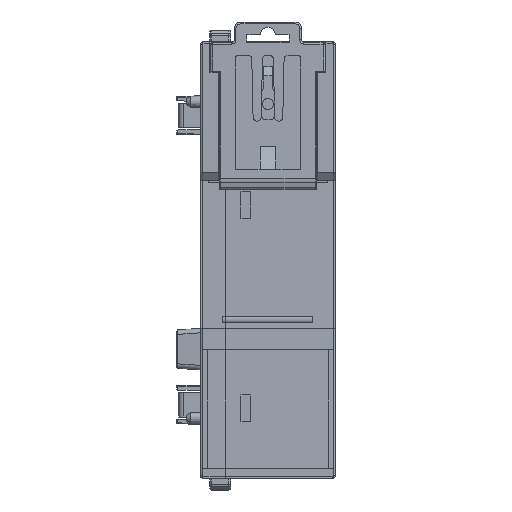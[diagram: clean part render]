
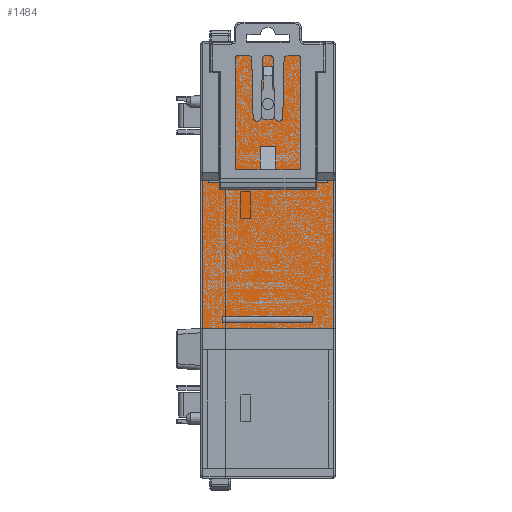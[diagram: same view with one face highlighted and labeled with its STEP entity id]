
A CAD part, front view. The second image highlights one B-rep face of the part: STEP entity #1484.
In plain terms, the highlighted planar face has unit normal (0, -1, 0).
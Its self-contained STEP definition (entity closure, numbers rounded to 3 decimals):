
#137=DIRECTION('',(0.,0.,-1.));
#138=VECTOR('',#137,35.5);
#139=CARTESIAN_POINT('',(-14.65,-42.2,17.75));
#140=LINE('',#139,#138);
#185=DIRECTION('',(0.,0.,1.));
#186=VECTOR('',#185,25.325);
#187=CARTESIAN_POINT('',(-10.35,-42.2,17.15));
#188=LINE('',#187,#186);
#189=DIRECTION('',(-1.,0.,0.));
#190=VECTOR('',#189,2.55);
#191=CARTESIAN_POINT('',(-10.35,-42.2,42.475));
#192=LINE('',#191,#190);
#193=DIRECTION('',(1.,0.,0.));
#194=VECTOR('',#193,25.8);
#195=CARTESIAN_POINT('',(-12.9,-42.2,48.5));
#196=LINE('',#195,#194);
#197=DIRECTION('',(-1.,0.,0.));
#198=VECTOR('',#197,2.55);
#199=CARTESIAN_POINT('',(12.9,-42.2,42.475));
#200=LINE('',#199,#198);
#201=DIRECTION('',(0.,0.,-1.));
#202=VECTOR('',#201,25.325);
#203=CARTESIAN_POINT('',(10.35,-42.2,42.475));
#204=LINE('',#203,#202);
#205=DIRECTION('',(-1.,0.,0.));
#206=VECTOR('',#205,29.3);
#207=CARTESIAN_POINT('',(14.65,-42.2,-17.75));
#208=LINE('',#207,#206);
#209=DIRECTION('',(-1.,0.,0.));
#210=VECTOR('',#209,2.);
#211=CARTESIAN_POINT('',(1.,-42.2,42.95));
#212=LINE('',#211,#210);
#213=DIRECTION('',(0.,0.,-1.));
#214=VECTOR('',#213,4.76);
#215=CARTESIAN_POINT('',(-1.,-42.2,42.95));
#216=LINE('',#215,#214);
#217=DIRECTION('',(-0.511,0.,-0.859));
#218=VECTOR('',#217,3.717);
#219=CARTESIAN_POINT('',(-1.,-42.2,38.19));
#220=LINE('',#219,#218);
#221=DIRECTION('',(0.,0.,-1.));
#222=VECTOR('',#221,0.6);
#223=CARTESIAN_POINT('',(-2.9,-42.2,34.995));
#224=LINE('',#223,#222);
#225=DIRECTION('',(0.511,0.,-0.859));
#226=VECTOR('',#225,3.717);
#227=CARTESIAN_POINT('',(-2.9,-42.2,34.395));
#228=LINE('',#227,#226);
#229=DIRECTION('',(1.,0.,0.));
#230=VECTOR('',#229,2.);
#231=CARTESIAN_POINT('',(-1.,-42.2,31.2));
#232=LINE('',#231,#230);
#233=DIRECTION('',(0.511,0.,0.859));
#234=VECTOR('',#233,3.717);
#235=CARTESIAN_POINT('',(1.,-42.2,31.2));
#236=LINE('',#235,#234);
#237=DIRECTION('',(0.,0.,1.));
#238=VECTOR('',#237,0.6);
#239=CARTESIAN_POINT('',(2.9,-42.2,34.395));
#240=LINE('',#239,#238);
#241=DIRECTION('',(-0.511,0.,0.86));
#242=VECTOR('',#241,3.717);
#243=CARTESIAN_POINT('',(2.9,-42.2,34.995));
#244=LINE('',#243,#242);
#245=DIRECTION('',(0.,0.,1.));
#246=VECTOR('',#245,4.76);
#247=CARTESIAN_POINT('',(1.,-42.2,38.19));
#248=LINE('',#247,#246);
#249=DIRECTION('',(0.,0.,-1.));
#250=VECTOR('',#249,1.47);
#251=CARTESIAN_POINT('',(-10.,-42.2,-12.465));
#252=LINE('',#251,#250);
#253=DIRECTION('',(0.,0.,1.));
#254=VECTOR('',#253,1.47);
#255=CARTESIAN_POINT('',(10.,-42.2,-13.935));
#256=LINE('',#255,#254);
#261=DIRECTION('',(-1.,0.,0.));
#262=VECTOR('',#261,1.4);
#263=CARTESIAN_POINT('',(-13.25,-42.2,17.75));
#264=LINE('',#263,#262);
#297=DIRECTION('',(0.,0.,-1.));
#298=VECTOR('',#297,6.025);
#299=CARTESIAN_POINT('',(-12.9,-42.2,48.5));
#300=LINE('',#299,#298);
#393=DIRECTION('',(0.,0.,1.));
#394=VECTOR('',#393,0.6);
#395=CARTESIAN_POINT('',(-13.25,-42.2,17.15));
#396=LINE('',#395,#394);
#405=DIRECTION('',(-1.,0.,0.));
#406=VECTOR('',#405,2.9);
#407=CARTESIAN_POINT('',(-10.35,-42.2,17.15));
#408=LINE('',#407,#406);
#513=DIRECTION('',(0.,0.,1.));
#514=VECTOR('',#513,35.5);
#515=CARTESIAN_POINT('',(14.65,-42.2,-17.75));
#516=LINE('',#515,#514);
#541=DIRECTION('',(-1.,0.,0.));
#542=VECTOR('',#541,1.4);
#543=CARTESIAN_POINT('',(14.65,-42.2,17.75));
#544=LINE('',#543,#542);
#553=DIRECTION('',(0.,0.,-1.));
#554=VECTOR('',#553,0.6);
#555=CARTESIAN_POINT('',(13.25,-42.2,17.75));
#556=LINE('',#555,#554);
#653=DIRECTION('',(0.,0.,1.));
#654=VECTOR('',#653,6.025);
#655=CARTESIAN_POINT('',(12.9,-42.2,42.475));
#656=LINE('',#655,#654);
#777=DIRECTION('',(-1.,0.,0.));
#778=VECTOR('',#777,2.9);
#779=CARTESIAN_POINT('',(13.25,-42.2,17.15));
#780=LINE('',#779,#778);
#965=DIRECTION('',(-1.,0.,0.));
#966=VECTOR('',#965,20.);
#967=CARTESIAN_POINT('',(10.,-42.2,-13.935));
#968=LINE('',#967,#966);
#969=DIRECTION('',(1.,0.,0.));
#970=VECTOR('',#969,20.);
#971=CARTESIAN_POINT('',(-10.,-42.2,-12.465));
#972=LINE('',#971,#970);
#1127=CARTESIAN_POINT('',(-12.9,-42.2,42.475));
#1128=VERTEX_POINT('',#1127);
#1129=CARTESIAN_POINT('',(-10.35,-42.2,42.475));
#1130=VERTEX_POINT('',#1129);
#1135=CARTESIAN_POINT('',(-12.9,-42.2,48.5));
#1136=VERTEX_POINT('',#1135);
#1175=CARTESIAN_POINT('',(-14.65,-42.2,17.75));
#1176=CARTESIAN_POINT('',(-14.65,-42.2,-17.75));
#1177=VERTEX_POINT('',#1175);
#1178=VERTEX_POINT('',#1176);
#1191=CARTESIAN_POINT('',(-13.25,-42.2,17.75));
#1192=VERTEX_POINT('',#1191);
#1193=CARTESIAN_POINT('',(-13.25,-42.2,17.15));
#1194=VERTEX_POINT('',#1193);
#1195=CARTESIAN_POINT('',(-10.35,-42.2,17.15));
#1196=VERTEX_POINT('',#1195);
#1197=CARTESIAN_POINT('',(12.9,-42.2,48.5));
#1198=VERTEX_POINT('',#1197);
#1199=CARTESIAN_POINT('',(12.9,-42.2,42.475));
#1200=VERTEX_POINT('',#1199);
#1201=CARTESIAN_POINT('',(10.35,-42.2,42.475));
#1202=VERTEX_POINT('',#1201);
#1203=CARTESIAN_POINT('',(10.35,-42.2,17.15));
#1204=VERTEX_POINT('',#1203);
#1205=CARTESIAN_POINT('',(13.25,-42.2,17.15));
#1206=VERTEX_POINT('',#1205);
#1207=CARTESIAN_POINT('',(13.25,-42.2,17.75));
#1208=VERTEX_POINT('',#1207);
#1209=CARTESIAN_POINT('',(14.65,-42.2,17.75));
#1210=VERTEX_POINT('',#1209);
#1211=CARTESIAN_POINT('',(14.65,-42.2,-17.75));
#1212=VERTEX_POINT('',#1211);
#1213=CARTESIAN_POINT('',(1.,-42.2,42.95));
#1214=CARTESIAN_POINT('',(-1.,-42.2,42.95));
#1215=VERTEX_POINT('',#1213);
#1216=VERTEX_POINT('',#1214);
#1217=CARTESIAN_POINT('',(-1.,-42.2,38.19));
#1218=VERTEX_POINT('',#1217);
#1219=CARTESIAN_POINT('',(-2.9,-42.2,34.995));
#1220=VERTEX_POINT('',#1219);
#1221=CARTESIAN_POINT('',(-2.9,-42.2,34.395));
#1222=VERTEX_POINT('',#1221);
#1223=CARTESIAN_POINT('',(-1.,-42.2,31.2));
#1224=VERTEX_POINT('',#1223);
#1225=CARTESIAN_POINT('',(1.,-42.2,31.2));
#1226=VERTEX_POINT('',#1225);
#1227=CARTESIAN_POINT('',(2.9,-42.2,34.395));
#1228=VERTEX_POINT('',#1227);
#1229=CARTESIAN_POINT('',(2.9,-42.2,34.995));
#1230=VERTEX_POINT('',#1229);
#1231=CARTESIAN_POINT('',(1.,-42.2,38.19));
#1232=VERTEX_POINT('',#1231);
#1233=CARTESIAN_POINT('',(-10.,-42.2,-12.465));
#1234=CARTESIAN_POINT('',(10.,-42.2,-12.465));
#1235=VERTEX_POINT('',#1233);
#1236=VERTEX_POINT('',#1234);
#1237=CARTESIAN_POINT('',(-10.,-42.2,-13.935));
#1238=VERTEX_POINT('',#1237);
#1239=CARTESIAN_POINT('',(10.,-42.2,-13.935));
#1240=VERTEX_POINT('',#1239);
#1414=CARTESIAN_POINT('',(47.4,-42.2,-17.75));
#1415=DIRECTION('',(0.,-1.,0.));
#1416=DIRECTION('',(0.,0.,1.));
#1417=AXIS2_PLACEMENT_3D('',#1414,#1415,#1416);
#1418=PLANE('',#1417);
#1419=ORIENTED_EDGE('',*,*,#1380,.F.);
#1421=ORIENTED_EDGE('',*,*,#1420,.F.);
#1423=ORIENTED_EDGE('',*,*,#1422,.F.);
#1425=ORIENTED_EDGE('',*,*,#1424,.F.);
#1427=ORIENTED_EDGE('',*,*,#1426,.T.);
#1429=ORIENTED_EDGE('',*,*,#1428,.T.);
#1431=ORIENTED_EDGE('',*,*,#1430,.F.);
#1433=ORIENTED_EDGE('',*,*,#1432,.T.);
#1435=ORIENTED_EDGE('',*,*,#1434,.F.);
#1437=ORIENTED_EDGE('',*,*,#1436,.T.);
#1439=ORIENTED_EDGE('',*,*,#1438,.T.);
#1441=ORIENTED_EDGE('',*,*,#1440,.F.);
#1443=ORIENTED_EDGE('',*,*,#1442,.F.);
#1445=ORIENTED_EDGE('',*,*,#1444,.F.);
#1447=ORIENTED_EDGE('',*,*,#1446,.F.);
#1449=ORIENTED_EDGE('',*,*,#1448,.T.);
#1450=EDGE_LOOP('',(#1419,#1421,#1423,#1425,#1427,#1429,#1431,#1433,#1435,#1437,
#1439,#1441,#1443,#1445,#1447,#1449));
#1451=FACE_OUTER_BOUND('',#1450,.F.);
#1453=ORIENTED_EDGE('',*,*,#1452,.T.);
#1455=ORIENTED_EDGE('',*,*,#1454,.T.);
#1457=ORIENTED_EDGE('',*,*,#1456,.T.);
#1459=ORIENTED_EDGE('',*,*,#1458,.T.);
#1461=ORIENTED_EDGE('',*,*,#1460,.T.);
#1463=ORIENTED_EDGE('',*,*,#1462,.T.);
#1465=ORIENTED_EDGE('',*,*,#1464,.T.);
#1467=ORIENTED_EDGE('',*,*,#1466,.T.);
#1469=ORIENTED_EDGE('',*,*,#1468,.T.);
#1471=ORIENTED_EDGE('',*,*,#1470,.T.);
#1472=EDGE_LOOP('',(#1453,#1455,#1457,#1459,#1461,#1463,#1465,#1467,#1469,
#1471));
#1473=FACE_BOUND('',#1472,.F.);
#1475=ORIENTED_EDGE('',*,*,#1474,.F.);
#1477=ORIENTED_EDGE('',*,*,#1476,.T.);
#1479=ORIENTED_EDGE('',*,*,#1478,.F.);
#1481=ORIENTED_EDGE('',*,*,#1480,.T.);
#1482=EDGE_LOOP('',(#1475,#1477,#1479,#1481));
#1483=FACE_BOUND('',#1482,.F.);
#1380=EDGE_CURVE('',#1177,#1178,#140,.T.);
#1420=EDGE_CURVE('',#1192,#1177,#264,.T.);
#1422=EDGE_CURVE('',#1194,#1192,#396,.T.);
#1424=EDGE_CURVE('',#1196,#1194,#408,.T.);
#1426=EDGE_CURVE('',#1196,#1130,#188,.T.);
#1428=EDGE_CURVE('',#1130,#1128,#192,.T.);
#1430=EDGE_CURVE('',#1136,#1128,#300,.T.);
#1432=EDGE_CURVE('',#1136,#1198,#196,.T.);
#1434=EDGE_CURVE('',#1200,#1198,#656,.T.);
#1436=EDGE_CURVE('',#1200,#1202,#200,.T.);
#1438=EDGE_CURVE('',#1202,#1204,#204,.T.);
#1440=EDGE_CURVE('',#1206,#1204,#780,.T.);
#1442=EDGE_CURVE('',#1208,#1206,#556,.T.);
#1444=EDGE_CURVE('',#1210,#1208,#544,.T.);
#1446=EDGE_CURVE('',#1212,#1210,#516,.T.);
#1448=EDGE_CURVE('',#1212,#1178,#208,.T.);
#1452=EDGE_CURVE('',#1215,#1216,#212,.T.);
#1454=EDGE_CURVE('',#1216,#1218,#216,.T.);
#1456=EDGE_CURVE('',#1218,#1220,#220,.T.);
#1458=EDGE_CURVE('',#1220,#1222,#224,.T.);
#1460=EDGE_CURVE('',#1222,#1224,#228,.T.);
#1462=EDGE_CURVE('',#1224,#1226,#232,.T.);
#1464=EDGE_CURVE('',#1226,#1228,#236,.T.);
#1466=EDGE_CURVE('',#1228,#1230,#240,.T.);
#1468=EDGE_CURVE('',#1230,#1232,#244,.T.);
#1470=EDGE_CURVE('',#1232,#1215,#248,.T.);
#1474=EDGE_CURVE('',#1235,#1236,#972,.T.);
#1476=EDGE_CURVE('',#1235,#1238,#252,.T.);
#1478=EDGE_CURVE('',#1240,#1238,#968,.T.);
#1480=EDGE_CURVE('',#1240,#1236,#256,.T.);
#1484=ADVANCED_FACE('',(#1451,#1473,#1483),#1418,.T.);
